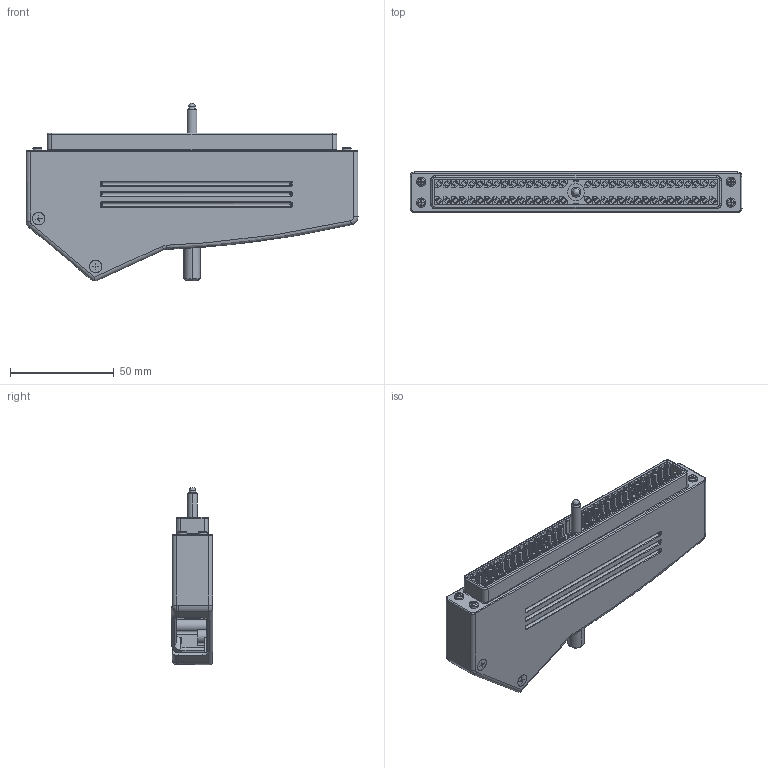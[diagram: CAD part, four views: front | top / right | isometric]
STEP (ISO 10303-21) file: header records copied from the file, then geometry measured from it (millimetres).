
FILE_DESCRIPTION (( 'STEP AP214' ), '1' );
FILE_NAME ('10_8014_264_xxx_100.STEP', '2019-05-27T01:32:02', ( '' ), ( '' ), 'SwSTEP 2.0', 'SolidWorks 2017', '' );
FILE_SCHEMA (( 'AUTOMOTIVE_DESIGN' ));
Products named in the file (1): 10_8014_264_xxx_100
Bounding box: 159.8 x 19.92 x 85.3 mm (x, y, z)
Volume: 79769.5 mm3; surface area: 51694.4 mm2
Topology: 1 solids, 1 shells, 4092 faces, 10821 edges, 6747 vertices
Faces by surface type: cylinder 1745, plane 1656, bspline 653, cone 32, torus 6
Entity records: 160788 total; most frequent: CARTESIAN_POINT 68668, ORIENTED_EDGE 21620, DIRECTION 15917, EDGE_CURVE 10810, VERTEX_POINT 6747, AXIS2_PLACEMENT_3D 5356, LINE 5205, VECTOR 5205
